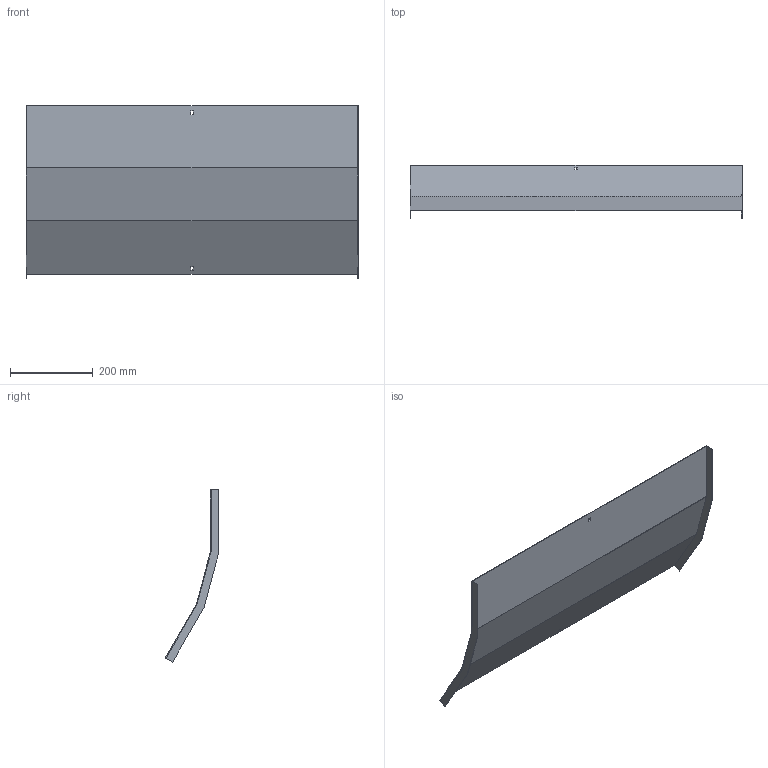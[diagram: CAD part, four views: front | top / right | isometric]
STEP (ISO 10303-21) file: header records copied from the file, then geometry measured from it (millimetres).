
FILE_DESCRIPTION (( 'STEP AP214' ), '1' );
FILE_NAME ('B2X32N5R800X.step', '2025-03-20T09:40:48', ( '' ), ( '' ), 'SwSTEP 2.0', 'SolidWorks 2023', '' );
FILE_SCHEMA (( 'AUTOMOTIVE_DESIGN' ));
Length unit declared in the file: millimetre
Products named in the file (1): B2X32N5R800X
Bounding box: 803 x 128.96 x 416.64 mm (x, y, z)
Volume: 543926.4 mm3; surface area: 729172.2 mm2
Topology: 1 solids, 1 shells, 26 faces, 72 edges, 48 vertices
Faces by surface type: plane 26
Entity records: 847 total; most frequent: CARTESIAN_POINT 147, ORIENTED_EDGE 144, DIRECTION 126, EDGE_CURVE 72, VECTOR 72, LINE 72, VERTEX_POINT 48, EDGE_LOOP 30
